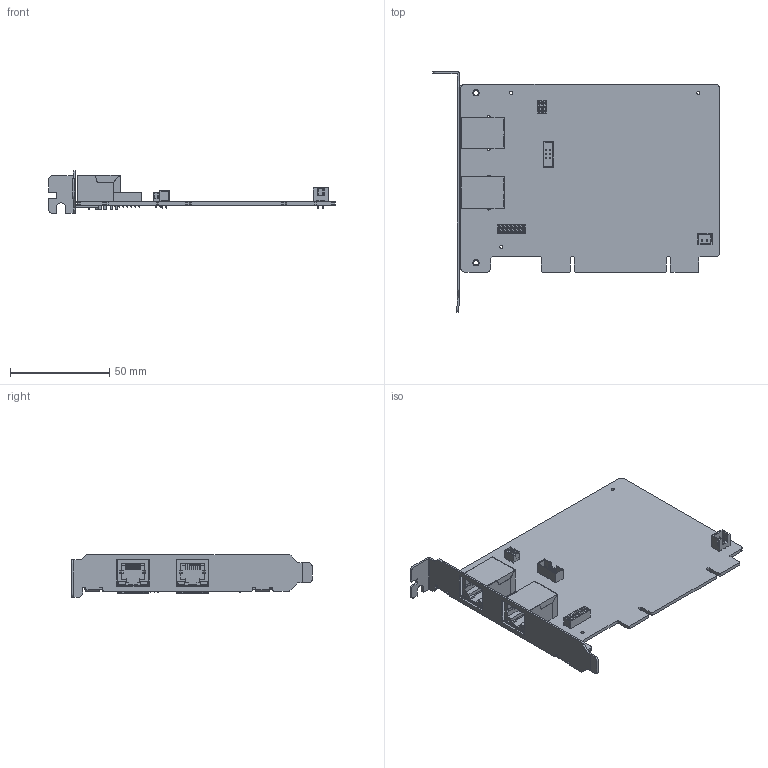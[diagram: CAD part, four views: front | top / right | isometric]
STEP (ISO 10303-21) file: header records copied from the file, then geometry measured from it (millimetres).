
FILE_DESCRIPTION (( 'STEP AP203' ), '1' );
FILE_NAME ('3Dͼֽ I6-1112 V1.0.STEP', '2022-10-25T09:57:16', ( 'Microsoft' ), ( 'Microsoft' ), 'SwSTEP 2.0', 'SolidWorks 2020', '' );
FILE_SCHEMA (( 'CONFIG_CONTROL_DESIGN' ));
Length unit declared in the file: millimetre
Products named in the file (1): 3Dͼֽ I6-1112 V1.0
Bounding box: 144.22 x 121.02 x 21.59 mm (x, y, z)
Surface area: 35167.4 mm2 (no closed solid volume)
Topology: 0 solids, 91 shells, 1025 faces, 3480 edges, 2435 vertices
Faces by surface type: plane 763, cylinder 176, cone 86
Entity records: 36959 total; most frequent: CARTESIAN_POINT 7061, DIRECTION 6119, ORIENTED_EDGE 5377, EDGE_CURVE 3480, LINE 2813, VECTOR 2813, VERTEX_POINT 2435, AXIS2_PLACEMENT_3D 1653
